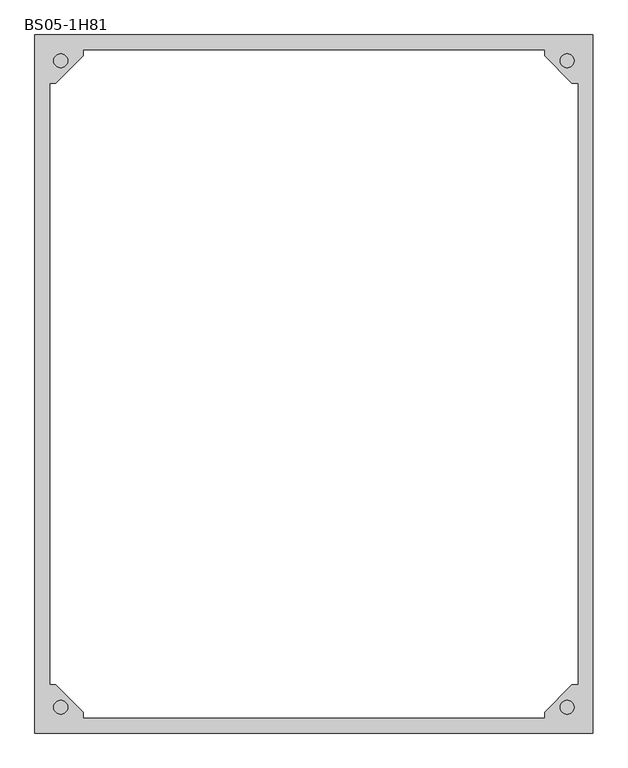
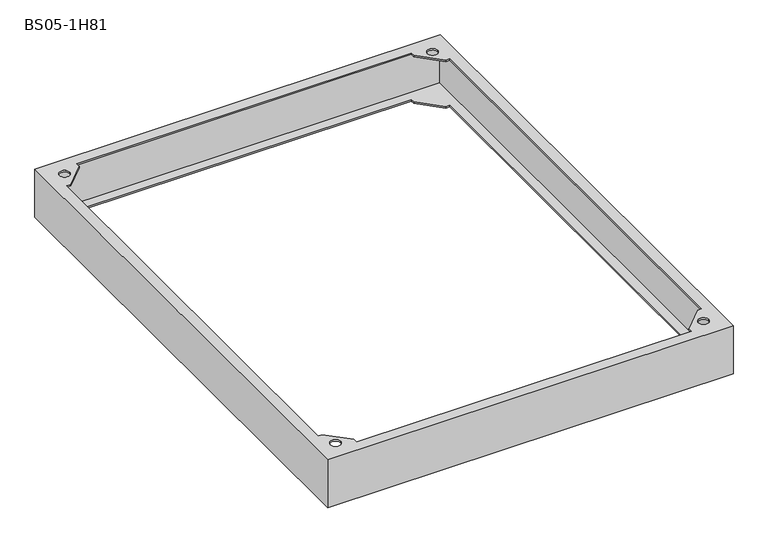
"""IFC4 building model written with IfcOpenShell, lengths in millimetres: proxy geometry, Цоколь для напольных шкафов : BS05-1H81."""

from ifc_helpers import new_model, si_unit, frame, origin, place, context, project, spatial, polyline, circle_curve, source, transform, mapped, element, save
from ifc_brep_helpers import plane_surface, revolved_surface, advanced_brep


def bs05_1h81_ce5c7a65(model_context):
    return source(origin(), model_context, "Body", "AdvancedBrep", [
        advanced_brep(
        [(400.0, -500.0, 100.0), (400.0, -500.0, 97.0), (400.0, -500.0, 3.0), (400.0, -500.0, 0.0), (400.0, 500.0, 0.0), (400.0, 500.0, 3.0), (400.0, 500.0, 97.0), (400.0, 500.0, 100.0), (378.0, 430.0, 0.0), (378.0, -430.0, 0.0), (378.0, -430.0, 3.0), (378.0, 430.0, 3.0), (397.0, 497.0, 97.0), (397.0, 497.0, 3.0), (397.0, -497.0, 3.0), (397.0, -497.0, 97.0), (378.0, 430.0, 97.0), (378.0, -430.0, 97.0), (378.0, -430.0, 100.0), (378.0, 430.0, 100.0), (-400.0, -500.0, 100.0), (-400.0, -500.0, 97.0), (-400.0, -500.0, 3.0), (-400.0, -500.0, 0.0), (330.0, -478.0, 0.0), (-330.0, -478.0, 0.0), (-330.0, -478.0, 3.0), (330.0, -478.0, 3.0), (-397.0, -497.0, 3.0), (-397.0, -497.0, 97.0), (330.0, -478.0, 97.0), (-330.0, -478.0, 97.0), (-330.0, -478.0, 100.0), (330.0, -478.0, 100.0), (-400.0, 500.0, 100.0), (-400.0, 500.0, 97.0), (-400.0, 500.0, 3.0), (-400.0, 500.0, 0.0), (-378.0, -430.0, 0.0), (-378.0, 430.0, 0.0), (-378.0, 430.0, 3.0), (-378.0, -430.0, 3.0), (-397.0, 497.0, 3.0), (-397.0, 497.0, 97.0), (-378.0, -430.0, 97.0), (-378.0, 430.0, 97.0), (-378.0, 430.0, 100.0), (-378.0, -430.0, 100.0), (-330.0, -470.0, 100.0), (-370.0, -430.0, 100.0), (-370.0, 430.0, 100.0), (-330.0, 470.0, 100.0), (-330.0, 478.0, 100.0), (330.0, 478.0, 100.0), (330.0, 470.0, 100.0), (370.0, 430.0, 100.0), (370.0, -430.0, 100.0), (330.0, -470.0, 100.0), (-352.9289322, -462.9289322, 100.0), (-372.9289322, -462.9289322, 100.0), (372.9289322, -462.9289322, 100.0), (352.9289322, -462.9289322, 100.0), (-352.9289322, 462.9289322, 100.0), (-372.9289322, 462.9289322, 100.0), (372.9289322, 462.9289322, 100.0), (352.9289322, 462.9289322, 100.0), (370.0, 430.0, 0.0), (330.0, 470.0, 0.0), (330.0, 478.0, 0.0), (-330.0, 478.0, 0.0), (-330.0, 470.0, 0.0), (-370.0, 430.0, 0.0), (-370.0, -430.0, 0.0), (-330.0, -470.0, 0.0), (330.0, -470.0, 0.0), (370.0, -430.0, 0.0), (330.0, 478.0, 3.0), (-330.0, 478.0, 3.0), (370.0, -430.0, 3.0), (330.0, -470.0, 3.0), (-330.0, -470.0, 3.0), (-370.0, -430.0, 3.0), (-370.0, 430.0, 3.0), (-330.0, 470.0, 3.0), (330.0, 470.0, 3.0), (370.0, 430.0, 3.0), (-370.0, -430.0, 97.0), (-330.0, -470.0, 97.0), (330.0, -470.0, 97.0), (370.0, -430.0, 97.0), (370.0, 430.0, 97.0), (330.0, 470.0, 97.0), (330.0, 478.0, 97.0), (-330.0, 478.0, 97.0), (-330.0, 470.0, 97.0), (-370.0, 430.0, 97.0), (-352.9289322, -462.9289322, 97.0), (-372.9289322, -462.9289322, 97.0), (372.9289322, -462.9289322, 97.0), (352.9289322, -462.9289322, 97.0), (-352.9289322, 462.9289322, 97.0), (-372.9289322, 462.9289322, 97.0), (372.9289322, 462.9289322, 97.0), (352.9289322, 462.9289322, 97.0)],
        [
            (0, 1),
            (1, 2),
            (2, 3),
            (3, 4),
            (4, 5),
            (5, 6),
            (6, 7),
            (7, 0),
            (8, 9),
            (9, 10),
            (10, 11),
            (11, 8),
            (12, 13),
            (13, 14),
            (14, 15),
            (15, 12),
            (16, 17),
            (17, 18),
            (18, 19),
            (19, 16),
            (0, 20),
            (20, 21),
            (21, 22),
            (22, 23),
            (23, 3),
            (24, 25),
            (25, 26),
            (26, 27),
            (27, 24),
            (14, 28),
            (28, 29),
            (29, 15),
            (30, 31),
            (31, 32),
            (32, 33),
            (33, 30),
            (20, 34),
            (34, 35),
            (35, 36),
            (36, 37),
            (37, 23),
            (38, 39),
            (39, 40),
            (40, 41),
            (41, 38),
            (28, 42),
            (42, 43),
            (43, 29),
            (44, 45),
            (45, 46),
            (46, 47),
            (47, 44),
            (7, 34),
            (48, 49),
            (49, 47),
            (46, 50),
            (50, 51),
            (51, 52),
            (52, 53),
            (53, 54),
            (54, 55),
            (55, 19),
            (18, 56),
            (56, 57),
            (57, 33),
            (32, 48),
            (58, 59, circle_curve(frame((-362.9289322, -462.9289322, 100.0), z_axis=(0.0, 0.0, -1.0), x_axis=(-1.0, 0.0, 0.0)), 10.0)),
            (59, 58, circle_curve(frame((-362.9289322, -462.9289322, 100.0), z_axis=(0.0, 0.0, -1.0), x_axis=(-1.0, 0.0, 0.0)), 10.0)),
            (60, 61, circle_curve(frame((362.9289322, -462.9289322, 100.0), z_axis=(0.0, 0.0, -1.0), x_axis=(-1.0, 0.0, 0.0)), 10.0)),
            (61, 60, circle_curve(frame((362.9289322, -462.9289322, 100.0), z_axis=(0.0, 0.0, -1.0), x_axis=(-1.0, 0.0, 0.0)), 10.0)),
            (62, 63, circle_curve(frame((-362.9289322, 462.9289322, 100.0), z_axis=(0.0, 0.0, -1.0), x_axis=(-1.0, 0.0, 0.0)), 10.0)),
            (63, 62, circle_curve(frame((-362.9289322, 462.9289322, 100.0), z_axis=(0.0, 0.0, -1.0), x_axis=(-1.0, 0.0, 0.0)), 10.0)),
            (64, 65, circle_curve(frame((362.9289322, 462.9289322, 100.0), z_axis=(0.0, 0.0, -1.0), x_axis=(-1.0, 0.0, 0.0)), 10.0)),
            (65, 64, circle_curve(frame((362.9289322, 462.9289322, 100.0), z_axis=(0.0, 0.0, -1.0), x_axis=(-1.0, 0.0, 0.0)), 10.0)),
            (4, 37),
            (8, 66),
            (66, 67),
            (67, 68),
            (68, 69),
            (69, 70),
            (70, 71),
            (71, 39),
            (38, 72),
            (72, 73),
            (73, 25),
            (24, 74),
            (74, 75),
            (75, 9),
            (68, 76),
            (76, 77),
            (77, 69),
            (13, 42),
            (10, 78),
            (78, 79),
            (79, 27),
            (26, 80),
            (80, 81),
            (81, 41),
            (40, 82),
            (82, 83),
            (83, 77),
            (76, 84),
            (84, 85),
            (85, 11),
            (12, 43),
            (86, 87),
            (87, 31),
            (30, 88),
            (88, 89),
            (89, 17),
            (16, 90),
            (90, 91),
            (91, 92),
            (92, 93),
            (93, 94),
            (94, 95),
            (95, 45),
            (44, 86),
            (96, 97, circle_curve(frame((-362.9289322, -462.9289322, 97.0), z_axis=(0.0, 0.0, 1.0), x_axis=(-1.0, 0.0, 0.0)), 10.0)),
            (97, 96, circle_curve(frame((-362.9289322, -462.9289322, 97.0), z_axis=(0.0, 0.0, 1.0), x_axis=(-1.0, 0.0, 0.0)), 10.0)),
            (98, 99, circle_curve(frame((362.9289322, -462.9289322, 97.0), z_axis=(0.0, 0.0, 1.0), x_axis=(-1.0, 0.0, 0.0)), 10.0)),
            (99, 98, circle_curve(frame((362.9289322, -462.9289322, 97.0), z_axis=(0.0, 0.0, 1.0), x_axis=(-1.0, 0.0, 0.0)), 10.0)),
            (100, 101, circle_curve(frame((-362.9289322, 462.9289322, 97.0), z_axis=(0.0, 0.0, 1.0), x_axis=(-1.0, 0.0, 0.0)), 10.0)),
            (101, 100, circle_curve(frame((-362.9289322, 462.9289322, 97.0), z_axis=(0.0, 0.0, 1.0), x_axis=(-1.0, 0.0, 0.0)), 10.0)),
            (102, 103, circle_curve(frame((362.9289322, 462.9289322, 97.0), z_axis=(0.0, 0.0, 1.0), x_axis=(-1.0, 0.0, 0.0)), 10.0)),
            (103, 102, circle_curve(frame((362.9289322, 462.9289322, 97.0), z_axis=(0.0, 0.0, 1.0), x_axis=(-1.0, 0.0, 0.0)), 10.0)),
            (52, 93),
            (92, 53),
            (87, 48),
            (86, 49),
            (89, 56),
            (88, 57),
            (95, 50),
            (94, 51),
            (91, 54),
            (90, 55),
            (58, 96),
            (97, 59),
            (60, 98),
            (99, 61),
            (62, 100),
            (101, 63),
            (64, 102),
            (103, 65),
            (73, 80),
            (72, 81),
            (75, 78),
            (74, 79),
            (71, 82),
            (70, 83),
            (67, 84),
            (66, 85),
        ],
        [
            plane_surface(frame((400.0, 500.0, 100.0), z_axis=(1.0, 0.0, 0.0), x_axis=(0.0, -1.0, 0.0))),
            plane_surface(frame((378.0, 478.0, 0.0), z_axis=(-1.0, 0.0, 0.0), x_axis=(0.0, -1.0, 0.0))),
            plane_surface(frame((397.0, 497.0, 3.0), z_axis=(-1.0, 0.0, 0.0), x_axis=(0.0, -1.0, 0.0))),
            plane_surface(frame((378.0, 478.0, 97.0), z_axis=(-1.0, 0.0, 0.0), x_axis=(0.0, -1.0, 0.0))),
            plane_surface(frame((400.0, -500.0, 100.0), z_axis=(0.0, -1.0, 0.0), x_axis=(-1.0, 0.0, 0.0))),
            plane_surface(frame((378.0, -478.0, 0.0), z_axis=(0.0, 1.0, 0.0), x_axis=(-1.0, 0.0, 0.0))),
            plane_surface(frame((397.0, -497.0, 3.0), z_axis=(0.0, 1.0, 0.0), x_axis=(-1.0, 0.0, 0.0))),
            plane_surface(frame((378.0, -478.0, 97.0), z_axis=(0.0, 1.0, 0.0), x_axis=(-1.0, 0.0, 0.0))),
            plane_surface(frame((-400.0, -500.0, 100.0), z_axis=(-1.0, 0.0, 0.0), x_axis=(0.0, 1.0, 0.0))),
            plane_surface(frame((-378.0, -478.0, 0.0), z_axis=(1.0, 0.0, 0.0), x_axis=(0.0, 1.0, 0.0))),
            plane_surface(frame((-397.0, -497.0, 3.0), z_axis=(1.0, 0.0, 0.0), x_axis=(0.0, 1.0, 0.0))),
            plane_surface(frame((-378.0, -478.0, 97.0), z_axis=(1.0, 0.0, 0.0), x_axis=(0.0, 1.0, 0.0))),
            plane_surface(frame((-378.0, 478.0, 100.0), z_axis=(0.0, 0.0, 1.0), x_axis=(1.0, 0.0, 0.0))),
            plane_surface(frame((-400.0, 500.0, 100.0), z_axis=(0.0, 1.0, 0.0), x_axis=(1.0, 0.0, 0.0))),
            plane_surface(frame((-400.0, 500.0, 0.0), z_axis=(0.0, 0.0, -1.0), x_axis=(1.0, 0.0, 0.0))),
            plane_surface(frame((-378.0, 478.0, 0.0), z_axis=(0.0, -1.0, 0.0), x_axis=(1.0, 0.0, 0.0))),
            plane_surface(frame((-378.0, 478.0, 3.0), z_axis=(0.0, 0.0, 1.0), x_axis=(1.0, 0.0, 0.0))),
            plane_surface(frame((-397.0, 497.0, 3.0), z_axis=(0.0, -1.0, 0.0), x_axis=(1.0, 0.0, 0.0))),
            plane_surface(frame((-397.0, 497.0, 97.0), z_axis=(0.0, 0.0, -1.0), x_axis=(1.0, 0.0, 0.0))),
            plane_surface(frame((-378.0, 478.0, 97.0), z_axis=(0.0, -1.0, 0.0), x_axis=(1.0, 0.0, 0.0))),
            plane_surface(frame((-330.0, -500.0, 100.0), z_axis=(1.0, 0.0, 0.0), x_axis=(0.0, 0.0, -1.0))),
            plane_surface(frame((-330.0, -470.0, 100.0), z_axis=(0.7071067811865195, 0.7071067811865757, 0.0), x_axis=(0.0, 0.0, -1.0))),
            plane_surface(frame((-370.0, -430.0, 100.0), z_axis=(0.0, 1.0, 0.0), x_axis=(0.0, 0.0, -1.0))),
            plane_surface(frame((400.0, -430.0, 100.0), z_axis=(0.0, 1.0, 0.0), x_axis=(0.0, 0.0, -1.0))),
            plane_surface(frame((370.0, -430.0, 100.0), z_axis=(-0.7071067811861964, 0.7071067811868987, 0.0), x_axis=(0.0, 0.0, -1.0))),
            plane_surface(frame((330.0, -470.0, 100.0), z_axis=(-1.0, 0.0, 0.0), x_axis=(0.0, 0.0, -1.0))),
            plane_surface(frame((-400.0, 430.0, 100.0), z_axis=(0.0, -1.0, 0.0), x_axis=(0.0, 0.0, -1.0))),
            plane_surface(frame((-370.0, 430.0, 100.0), z_axis=(0.7071067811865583, -0.7071067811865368, 0.0), x_axis=(0.0, 0.0, -1.0))),
            plane_surface(frame((-330.0, 470.0, 100.0), z_axis=(1.0, 0.0, 0.0), x_axis=(0.0, 0.0, -1.0))),
            plane_surface(frame((330.0, 500.0, 100.0), z_axis=(-1.0, 0.0, 0.0), x_axis=(0.0, 0.0, -1.0))),
            plane_surface(frame((330.0, 470.0, 100.0), z_axis=(-0.7071067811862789, -0.7071067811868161, 0.0), x_axis=(0.0, 0.0, -1.0))),
            plane_surface(frame((370.0, 430.0, 100.0), z_axis=(0.0, -1.0, 0.0), x_axis=(0.0, 0.0, -1.0))),
            revolved_surface(polyline([(-372.9289322, -462.9289322, 97.0), (-372.9289322, -462.9289322, 100.0)]), (-362.9289322, -462.9289322, 100.0), (0.0, 0.0, -1.0)),
            revolved_surface(polyline([(352.9289322, -462.9289322, 97.0), (352.9289322, -462.9289322, 100.0)]), (362.9289322, -462.9289322, 100.0), (0.0, 0.0, -1.0)),
            revolved_surface(polyline([(-372.9289322, 462.9289322, 97.0), (-372.9289322, 462.9289322, 100.0)]), (-362.9289322, 462.9289322, 100.0), (0.0, 0.0, -1.0)),
            revolved_surface(polyline([(352.9289322, 462.9289322, 97.0), (352.9289322, 462.9289322, 100.0)]), (362.9289322, 462.9289322, 100.0), (0.0, 0.0, -1.0)),
            plane_surface(frame((-330.0, -500.0, 3.0), z_axis=(1.0, 0.0, 0.0), x_axis=(0.0, 0.0, -1.0))),
            plane_surface(frame((-330.0, -470.0, 3.0), z_axis=(0.7071067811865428, 0.7071067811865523, 0.0), x_axis=(0.0, 0.0, -1.0))),
            plane_surface(frame((-370.0, -430.0, 3.0), z_axis=(0.0, 1.0, 0.0), x_axis=(0.0, 0.0, -1.0))),
            plane_surface(frame((400.0, -430.0, 3.0), z_axis=(0.0, 1.0, 0.0), x_axis=(0.0, 0.0, -1.0))),
            plane_surface(frame((370.0, -430.0, 3.0), z_axis=(-0.7071067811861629, 0.7071067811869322, 0.0), x_axis=(0.0, 0.0, -1.0))),
            plane_surface(frame((330.0, -470.0, 3.0), z_axis=(-1.0, 0.0, 0.0), x_axis=(0.0, 0.0, -1.0))),
            plane_surface(frame((-400.0, 430.0, 3.0), z_axis=(0.0, -1.0, 0.0), x_axis=(0.0, 0.0, -1.0))),
            plane_surface(frame((-370.0, 430.0, 3.0), z_axis=(0.7071067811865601, -0.7071067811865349, 0.0), x_axis=(0.0, 0.0, -1.0))),
            plane_surface(frame((-330.0, 470.0, 3.0), z_axis=(1.0, 0.0, 0.0), x_axis=(0.0, 0.0, -1.0))),
            plane_surface(frame((330.0, 500.0, 3.0), z_axis=(-1.0, 0.0, 0.0), x_axis=(0.0, 0.0, -1.0))),
            plane_surface(frame((330.0, 470.0, 3.0), z_axis=(-0.7071067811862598, -0.7071067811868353, 0.0), x_axis=(0.0, 0.0, -1.0))),
            plane_surface(frame((370.0, 430.0, 3.0), z_axis=(0.0, -1.0, 0.0), x_axis=(0.0, 0.0, -1.0))),
        ],
        [
            (0, [[1, 2, 3, 4, 5, 6, 7, 8]]),
            (1, [[9, 10, 11, 12]]),
            (2, [[13, 14, 15, 16]]),
            (3, [[17, 18, 19, 20]]),
            (4, [[-1, 21, 22, 23, 24, 25, -3, -2]]),
            (5, [[26, 27, 28, 29]]),
            (6, [[-15, 30, 31, 32]]),
            (7, [[33, 34, 35, 36]]),
            (8, [[-22, 37, 38, 39, 40, 41, -24, -23]]),
            (9, [[42, 43, 44, 45]]),
            (10, [[-31, 46, 47, 48]]),
            (11, [[49, 50, 51, 52]]),
            (12, [[-8, 53, -37, -21], [54, 55, -51, 56, 57, 58, 59, 60, 61, 62, -19, 63, 64, 65, -35, 66], [67, 68], [69, 70], [71, 72], [73, 74]]),
            (13, [[-38, -53, -7, -6, -5, 75, -40, -39]]),
            (14, [[-4, -25, -41, -75], [-9, 76, 77, 78, 79, 80, 81, 82, -42, 83, 84, 85, -26, 86, 87, 88]]),
            (15, [[-79, 89, 90, 91]]),
            (16, [[-14, 92, -46, -30], [-11, 93, 94, 95, -28, 96, 97, 98, -44, 99, 100, 101, -90, 102, 103, 104]]),
            (17, [[-92, -13, 105, -47]]),
            (18, [[-32, -48, -105, -16], [106, 107, -33, 108, 109, 110, -17, 111, 112, 113, 114, 115, 116, 117, -49, 118], [119, 120], [121, 122], [123, 124], [125, 126]]),
            (19, [[-59, 127, -114, 128]]),
            (20, [[129, -66, -34, -107]]),
            (21, [[-54, -129, -106, 130]]),
            (22, [[-130, -118, -52, -55]]),
            (23, [[131, -63, -18, -110]]),
            (24, [[-64, -131, -109, 132]]),
            (25, [[-132, -108, -36, -65]]),
            (26, [[133, -56, -50, -117]]),
            (27, [[-57, -133, -116, 134]]),
            (28, [[-134, -115, -127, -58]]),
            (29, [[135, -60, -128, -113]]),
            (30, [[-61, -135, -112, 136]]),
            (31, [[-136, -111, -20, -62]]),
            (32, [[-67, 137, -120, 138]]),
            (32, [[-68, -138, -119, -137]]),
            (33, [[-69, 139, -122, 140]]),
            (33, [[-70, -140, -121, -139]]),
            (34, [[-71, 141, -124, 142]]),
            (34, [[-72, -142, -123, -141]]),
            (35, [[-73, 143, -126, 144]]),
            (35, [[-74, -144, -125, -143]]),
            (36, [[145, -96, -27, -85]]),
            (37, [[-97, -145, -84, 146]]),
            (38, [[-146, -83, -45, -98]]),
            (39, [[147, -93, -10, -88]]),
            (40, [[-94, -147, -87, 148]]),
            (41, [[-148, -86, -29, -95]]),
            (42, [[149, -99, -43, -82]]),
            (43, [[-100, -149, -81, 150]]),
            (44, [[-150, -80, -91, -101]]),
            (45, [[151, -102, -89, -78]]),
            (46, [[-103, -151, -77, 152]]),
            (47, [[-152, -76, -12, -104]]),
        ],
    ),
    ])


if __name__ == "__main__":
    model = new_model("IFC4")
    model_context = context("Model", 3, world=origin())
    ifc_project = project(units=[si_unit("LENGTHUNIT", "METRE", prefix="MILLI")], contexts=[model_context])
    site = spatial("IfcSite", under=ifc_project)
    building = spatial("IfcBuilding", under=site)
    placement = place(None, origin())
    bs05_1h81_shape = bs05_1h81_ce5c7a65(model_context)
    element("IfcBuildingElementProxy", 1, Name="Цоколь для напольных шкафов : BS05-1H81", ObjectType="Цоколь для напольных шкафов : BS05-1H81", at=placement, inside=building, context=model_context, shape_type="MappedRepresentation", body=[
        mapped(bs05_1h81_shape, transform((0.0, 0.0, 0.0), x_axis=(1.0, 0.0, 0.0), y_axis=(0.0, 1.0, 0.0), z_axis=(0.0, 0.0, 1.0))),
    ])
    save(model, "model.ifc")
